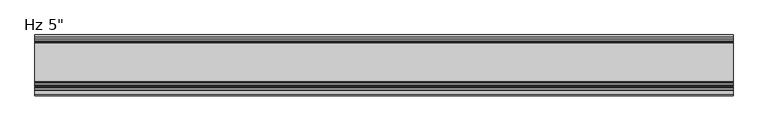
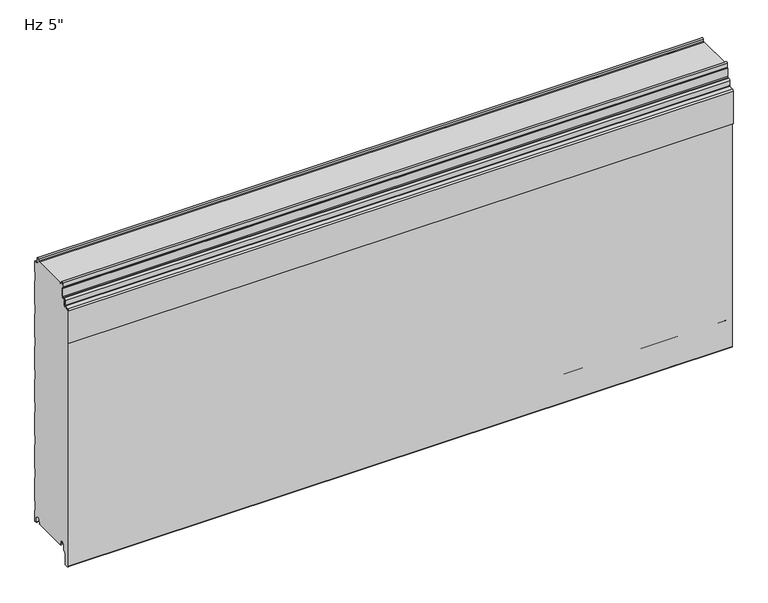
"""IFC4 building model written with IfcOpenShell, lengths in millimetres: plate geometry."""

from ifc_helpers import new_model, si_unit, frame, origin, place, context, project, spatial, polyline, circle_curve, source, transform, mapped, element, save
from ifc_brep_helpers import plane_surface, cylinder_surface, revolved_surface, advanced_brep


def plate_a877b8e1(model_context):
    return source(origin(), model_context, "Body", "AdvancedBrep", [
        advanced_brep(
        [(730.0, -105.9008679, 583.4464086), (730.0, -105.9008679, 602.1916086), (730.0, -107.4248679, 602.1916086), (730.0, -107.4248679, 583.4464086), (730.0, -108.9488679, 581.9224086), (730.0, -112.0476679, 581.9224086), (730.0, -115.5020679, 578.4680086), (730.0, -115.5020679, 567.2554512), (730.0, -116.1976552, 566.4963509), (730.0, -125.7416507, 565.3015233), (730.0, -128.524, 562.2651218), (730.0, -128.5360323, 486.6978086), (730.0, -127.0, 486.6978086), (730.0, -127.0, 562.2651218), (730.0, -125.6088254, 563.7833225), (730.0, -116.0648299, 564.9781501), (730.0, -113.9780679, 567.2554512), (730.0, -113.9780679, 578.4680086), (730.0, -112.0476679, 580.3984086), (730.0, -108.9488679, 580.3984086), (-730.0, -105.9008679, 583.4464086), (-730.0, -108.9488679, 580.3984086), (-730.0, -112.0476679, 580.3984086), (-730.0, -113.9780679, 578.4680086), (-730.0, -113.9780679, 567.2554512), (-730.0, -116.0648299, 564.9781501), (-730.0, -125.6088254, 563.7833225), (-730.0, -127.0, 562.2651218), (-730.0, -127.0, 486.6978086), (-730.0, -128.5360323, 486.6978086), (-730.0, -128.5360323, 562.2651218), (-730.0, -125.7416507, 565.3015233), (-730.0, -116.1976552, 566.4963509), (-730.0, -115.5020679, 567.2554512), (-730.0, -115.5020679, 578.4680086), (-730.0, -112.0476679, 581.9224086), (-730.0, -108.9488679, 581.9224086), (-730.0, -107.4248679, 583.4464086), (-730.0, -107.4248679, 602.1916086), (-730.0, -105.9008679, 602.1916086)],
        [
            (0, 1),
            (1, 2),
            (2, 3),
            (3, 4, circle_curve(frame((730.0, -108.9488679, 583.4464086), z_axis=(-1.0, 0.0, 0.0), x_axis=(0.0, 1.0, 0.0)), 1.524)),
            (4, 5),
            (5, 6, circle_curve(frame((730.0, -112.0476679, 578.4680086), z_axis=(1.0, 0.0, 0.0), x_axis=(0.0, 1.0, 0.0)), 3.4544)),
            (6, 7),
            (7, 8, circle_curve(frame((730.0, -116.2640679, 567.2554512), z_axis=(-1.0, 0.0, 0.0), x_axis=(0.0, 1.0, 0.0)), 0.762)),
            (8, 9),
            (9, 10, circle_curve(frame((730.0, -125.476, 562.2651218), z_axis=(1.0, 0.0, 0.0), x_axis=(0.0, 1.0, 0.0)), 3.048)),
            (10, 11),
            (11, 12),
            (12, 13),
            (13, 14, circle_curve(frame((730.0, -125.476, 562.2651218), z_axis=(-1.0, 0.0, 0.0), x_axis=(0.0, 1.0, 0.0)), 1.524)),
            (14, 15),
            (15, 16, circle_curve(frame((730.0, -116.2640679, 567.2554512), z_axis=(1.0, 0.0, 0.0), x_axis=(0.0, 1.0, 0.0)), 2.286)),
            (16, 17),
            (17, 18, circle_curve(frame((730.0, -112.0476679, 578.4680086), z_axis=(-1.0, 0.0, 0.0), x_axis=(0.0, 1.0, 0.0)), 1.9304)),
            (18, 19),
            (19, 0, circle_curve(frame((730.0, -108.9488679, 583.4464086), z_axis=(1.0, 0.0, 0.0), x_axis=(0.0, 1.0, 0.0)), 3.048)),
            (20, 21, circle_curve(frame((-730.0, -108.9488679, 583.4464086), z_axis=(-1.0, 0.0, 0.0), x_axis=(0.0, 1.0, 0.0)), 3.048)),
            (21, 22),
            (22, 23, circle_curve(frame((-730.0, -112.0476679, 578.4680086), z_axis=(1.0, 0.0, 0.0), x_axis=(0.0, 1.0, 0.0)), 1.9304)),
            (23, 24),
            (24, 25, circle_curve(frame((-730.0, -116.2640679, 567.2554512), z_axis=(-1.0, 0.0, 0.0), x_axis=(0.0, 1.0, 0.0)), 2.286)),
            (25, 26),
            (26, 27, circle_curve(frame((-730.0, -125.476, 562.2651218), z_axis=(1.0, 0.0, 0.0), x_axis=(0.0, 1.0, 0.0)), 1.524)),
            (27, 28),
            (28, 29),
            (29, 30),
            (30, 31, circle_curve(frame((-730.0, -125.476, 562.2651218), z_axis=(-1.0, 0.0, 0.0), x_axis=(0.0, 1.0, 0.0)), 3.048)),
            (31, 32),
            (32, 33, circle_curve(frame((-730.0, -116.2640679, 567.2554512), z_axis=(1.0, 0.0, 0.0), x_axis=(0.0, 1.0, 0.0)), 0.762)),
            (33, 34),
            (34, 35, circle_curve(frame((-730.0, -112.0476679, 578.4680086), z_axis=(-1.0, 0.0, 0.0), x_axis=(0.0, 1.0, 0.0)), 3.4544)),
            (35, 36),
            (36, 37, circle_curve(frame((-730.0, -108.9488679, 583.4464086), z_axis=(1.0, 0.0, 0.0), x_axis=(0.0, 1.0, 0.0)), 1.524)),
            (37, 38),
            (38, 39),
            (39, 20),
            (2, 38),
            (37, 3),
            (15, 25),
            (24, 16),
            (7, 33),
            (32, 8),
            (5, 35),
            (34, 6),
            (1, 39),
            (36, 4),
            (9, 31),
            (30, 10),
            (13, 27),
            (26, 14),
            (0, 20),
            (12, 28),
            (29, 11),
            (23, 17),
            (18, 22),
            (21, 19),
        ],
        [
            plane_surface(frame((730.0, -127.0, 602.1916086), z_axis=(1.0, 0.0, 0.0), x_axis=(0.0, 0.0, -1.0))),
            plane_surface(frame((-730.0, -127.0, 602.1916086), z_axis=(-1.0, 0.0, 0.0), x_axis=(0.0, 0.0, -1.0))),
            plane_surface(frame((730.0, -107.4248679, 583.4464086), z_axis=(0.0, -1.0, 0.0), x_axis=(-1.0, 0.0, 0.0))),
            cylinder_surface(frame((730.0, -116.2640679, 567.2554512), z_axis=(1.0, 0.0, 0.0), x_axis=(0.0, 1.0, 0.0)), 2.286),
            revolved_surface(polyline([(-730.0, -115.5020679, 567.2554512), (730.0, -115.5020679, 567.2554512)]), (730.0, -116.2640679, 567.2554512), (-1.0, 0.0, 0.0)),
            cylinder_surface(frame((730.0, -112.0476679, 578.4680086), z_axis=(1.0, 0.0, 0.0), x_axis=(0.0, 1.0, 0.0)), 3.4544),
            plane_surface(frame((730.0, -107.4248679, 602.1916086), z_axis=(0.0, 0.0, 1.0), x_axis=(-1.0, 0.0, 0.0))),
            revolved_surface(polyline([(-730.0, -107.4248679, 583.4464086), (730.0, -107.4248679, 583.4464086)]), (730.0, -108.9488679, 583.4464086), (-1.0, 0.0, 0.0)),
            cylinder_surface(frame((730.0, -125.476, 562.2651218), z_axis=(1.0, 0.0, 0.0), x_axis=(0.0, 1.0, 0.0)), 3.048),
            revolved_surface(polyline([(-730.0, -123.952, 562.2651218), (730.0, -123.952, 562.2651218)]), (730.0, -125.476, 562.2651218), (-1.0, 0.0, 0.0)),
            plane_surface(frame((730.0, -105.9008679, 602.1916086), z_axis=(0.0, 1.0, 0.0), x_axis=(-1.0, 0.0, 0.0))),
            plane_surface(frame((730.0, -116.0648299, 564.9781501), z_axis=(0.0, 0.12422187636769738, -0.9922544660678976), x_axis=(-1.0, 0.0, 0.0))),
            plane_surface(frame((730.0, -127.0, 562.2651218), z_axis=(0.0, 1.0, 0.0), x_axis=(-1.0, 0.0, 0.0))),
            plane_surface(frame((730.0, -125.7416507, 565.3015233), z_axis=(0.0, -0.12422187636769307, 0.9922544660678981), x_axis=(-1.0, 0.0, 0.0))),
            plane_surface(frame((730.0, -112.0476679, 581.9224086), z_axis=(0.0, 0.0, 1.0), x_axis=(-1.0, 0.0, 0.0))),
            plane_surface(frame((730.0, -128.5360323, 486.6978086), z_axis=(0.0, -1.0, 0.0), x_axis=(-1.0, 0.0, 0.0))),
            plane_surface(frame((730.0, -127.0, 486.6978086), z_axis=(0.0, 0.0, -1.0), x_axis=(-1.0, 0.0, 0.0))),
            plane_surface(frame((730.0, -113.9780679, 578.4680086), z_axis=(0.0, 1.0, 0.0), x_axis=(-1.0, 0.0, 0.0))),
            plane_surface(frame((730.0, -108.9488679, 580.3984086), z_axis=(0.0, 0.0, -1.0), x_axis=(-1.0, 0.0, 0.0))),
            plane_surface(frame((730.0, -115.5020679, 567.2554512), z_axis=(0.0, -1.0, 0.0), x_axis=(-1.0, 0.0, 0.0))),
            revolved_surface(polyline([(-730.0, -110.11726789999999, 578.4680086), (730.0, -110.11726789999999, 578.4680086)]), (730.0, -112.0476679, 578.4680086), (-1.0, 0.0, 0.0)),
            cylinder_surface(frame((730.0, -108.9488679, 583.4464086), z_axis=(1.0, 0.0, 0.0), x_axis=(0.0, 1.0, 0.0)), 3.048),
        ],
        [
            (0, [[1, 2, 3, 4, 5, 6, 7, 8, 9, 10, 11, 12, 13, 14, 15, 16, 17, 18, 19, 20]]),
            (1, [[21, 22, 23, 24, 25, 26, 27, 28, 29, 30, 31, 32, 33, 34, 35, 36, 37, 38, 39, 40]]),
            (2, [[41, -38, 42, -3]]),
            (3, [[43, -25, 44, -16]]),
            (4, [[45, -33, 46, -8]]),
            (5, [[47, -35, 48, -6]]),
            (6, [[49, -39, -41, -2]]),
            (7, [[-42, -37, 50, -4]]),
            (8, [[51, -31, 52, -10]]),
            (9, [[53, -27, 54, -14]]),
            (10, [[55, -40, -49, -1]]),
            (11, [[-54, -26, -43, -15]]),
            (12, [[56, -28, -53, -13]]),
            (13, [[-46, -32, -51, -9]]),
            (14, [[-50, -36, -47, -5]]),
            (15, [[-52, -30, 57, -11]]),
            (16, [[-57, -29, -56, -12]]),
            (17, [[-44, -24, 58, -17]]),
            (18, [[59, -22, 60, -19]]),
            (19, [[-48, -34, -45, -7]]),
            (20, [[-58, -23, -59, -18]]),
            (21, [[-60, -21, -55, -20]]),
        ],
    ),
        advanced_brep(
        [(-730.0, -98.670875, 1.0316999), (-730.0, -97.5014003, 2.2328239), (-730.0, -97.5014003, 5.9912173), (-730.0, -98.8998791, 5.9912173), (-730.0, -98.8998791, 8.6903283), (-730.0, -102.2498744, 12.0403236), (-730.0, -106.6498656, 12.0403236), (-730.0, -109.9998609, 8.6903283), (-730.0, -109.9998609, -3.1205608), (-730.0, -110.4977778, -4.3226385), (-730.0, -115.9998489, -9.8247096), (-730.0, -115.9998489, -31.9198392), (-730.0, -118.2184509, -34.5765709), (-730.0, -123.2002718, -35.0125699), (-730.0, -125.9945967, -32.4521176), (-730.0, -126.0, 561.115622), (-730.0, -124.2149259, 563.0669057), (-730.0, -115.7539491, 563.821161), (-730.0, -112.9906462, 566.9653654), (-730.0, -112.9906462, 577.0583308), (-730.0, -112.0392375, 578.0097394), (-730.0, -108.8955822, 578.0097394), (-730.0, -104.8961292, 582.0091924), (-730.0, -104.8961292, 603.1895515), (-730.0, -106.876977, 604.3334028), (-730.0, -106.5217167, 613.306811), (-730.0, -102.3211391, 613.3037148), (-730.0, -102.0767242, 609.2977997), (-730.0, -100.2819116, 607.5686884), (-730.0, -97.497365, 607.5686884), (-730.0, -97.497365, 608.5686884), (-730.0, -99.084865, 608.5686884), (-730.0, -98.0535534, 609.6), (-730.0, -18.6184525, 609.6), (-730.0, -17.5871409, 608.5686884), (-730.0, -19.0015288, 608.5686884), (-730.0, -19.0015288, 607.5686884), (-730.0, -16.6743462, 607.5686884), (-730.0, -14.9256429, 609.2513685), (-730.0, -14.7059822, 613.3921924), (-730.0, -10.4046442, 613.3931719), (-730.0, -9.9974365, 604.9016499), (-730.0, -6.0026007, 601.0787013), (-730.0, -1.0, 601.0787013), (-730.0, -1.0, 576.5794011), (-730.0, -2.2002307, 575.1937682), (-730.0, -2.2002307, 555.8186019), (-730.0, -1.0, 554.4329689), (-730.0, -1.0, 500.3795535), (-730.0, -2.2002307, 498.9939206), (-730.0, -2.2002307, 479.6187543), (-730.0, -1.0, 478.2331213), (-730.0, -1.0, 424.1797059), (-730.0, -2.2002307, 422.794073), (-730.0, -2.2002307, 403.4189067), (-730.0, -1.0, 402.0332737), (-730.0, -1.0, 347.9798583), (-730.0, -2.2002307, 346.5942254), (-730.0, -2.2002307, 327.2190591), (-730.0, -1.0, 325.8334261), (-730.0, -1.0, 271.7800107), (-730.0, -2.2002307, 270.3943778), (-730.0, -2.2002307, 251.0192115), (-730.0, -1.0, 249.6335785), (-730.0, -1.0, 195.5801631), (-730.0, -2.2002307, 194.1945302), (-730.0, -2.2002307, 174.8193639), (-730.0, -1.0, 173.4337309), (-730.0, -1.0, 119.3803155), (-730.0, -2.2002307, 117.9946826), (-730.0, -2.2002307, 98.6195163), (-730.0, -1.0, 97.2338833), (-730.0, -1.0, 43.1804679), (-730.0, -2.2002307, 41.794835), (-730.0, -2.2002307, 22.4196687), (-730.0, -0.9999916, 21.034026), (-730.0, -0.9999916, -3.4662506), (-730.0, -5.2315389, -3.4662506), (-730.0, -7.0015331, -1.6962564), (-730.0, -7.0015331, 8.7237222), (-730.0, -10.301529, 12.023718), (-730.0, -14.7015202, 12.023718), (-730.0, -18.0015159, 8.7237223), (-730.0, -18.0015159, 6.0315125), (-730.0, -19.0015105, 6.0315125), (-730.0, -19.0015105, 2.0313089), (-730.0, -18.0015192, 1.0313117), (-730.0, -19.0328308, 0.0), (-730.0, -97.6391751, 0.0), (730.0, -98.670875, 1.0316999), (730.0, -97.6391751, 0.0), (730.0, -19.0328308, 0.0), (730.0, -18.0015192, 1.0313117), (730.0, -19.0015105, 2.0313089), (730.0, -19.0015105, 6.0315125), (730.0, -18.0015159, 6.0315125), (730.0, -18.0015159, 8.7237223), (730.0, -14.7015202, 12.023718), (730.0, -10.301529, 12.023718), (730.0, -7.0015331, 8.7237222), (730.0, -7.0015331, -1.6962564), (730.0, -5.2315389, -3.4662506), (730.0, -0.9999916, -3.4662506), (730.0, -0.9999916, 21.034026), (730.0, -2.2002307, 22.4196687), (730.0, -2.2002307, 41.794835), (730.0, -1.0, 43.1804679), (730.0, -1.0, 97.2338833), (730.0, -2.2002307, 98.6195163), (730.0, -2.2002307, 117.9946826), (730.0, -1.0, 119.3803155), (730.0, -1.0, 173.4337309), (730.0, -2.2002307, 174.8193639), (730.0, -2.2002307, 194.1945302), (730.0, -1.0, 195.5801631), (730.0, -1.0, 249.6335785), (730.0, -2.2002307, 251.0192115), (730.0, -2.2002307, 270.3943778), (730.0, -1.0, 271.7800107), (730.0, -1.0, 325.8334261), (730.0, -2.2002307, 327.2190591), (730.0, -2.2002307, 346.5942254), (730.0, -1.0, 347.9798583), (730.0, -1.0, 402.0332737), (730.0, -2.2002307, 403.4189067), (730.0, -2.2002307, 422.794073), (730.0, -1.0, 424.1797059), (730.0, -1.0, 478.2331213), (730.0, -2.2002307, 479.6187543), (730.0, -2.2002307, 498.9939206), (730.0, -1.0, 500.3795535), (730.0, -1.0, 554.4329689), (730.0, -2.2002307, 555.8186019), (730.0, -2.2002307, 575.1937682), (730.0, -1.0, 576.5794011), (730.0, -1.0, 601.0787013), (730.0, -6.0026007, 601.0787013), (730.0, -9.9974365, 604.9016499), (730.0, -10.4046442, 613.3931719), (730.0, -14.7059822, 613.3921924), (730.0, -14.9256429, 609.2513685), (730.0, -16.6743462, 607.5686884), (730.0, -19.0015288, 607.5686884), (730.0, -19.0015288, 608.5686884), (730.0, -17.5871409, 608.5686884), (730.0, -18.6184525, 609.6), (730.0, -98.0535534, 609.6), (730.0, -99.084865, 608.5686884), (730.0, -97.497365, 608.5686884), (730.0, -97.497365, 607.5686884), (730.0, -100.2819116, 607.5686884), (730.0, -102.0767242, 609.2977997), (730.0, -102.3211391, 613.3037148), (730.0, -106.5217167, 613.306811), (730.0, -106.876977, 604.3334028), (730.0, -104.8961292, 603.1895515), (730.0, -104.8961292, 582.0091924), (730.0, -108.8955822, 578.0097394), (730.0, -112.0392375, 578.0097394), (730.0, -112.9906462, 577.0583308), (730.0, -112.9906462, 566.9653654), (730.0, -115.7539491, 563.821161), (730.0, -124.2149259, 563.0669057), (730.0, -126.0, 561.115622), (730.0, -126.0, -32.4521176), (730.0, -123.2002718, -35.0125699), (730.0, -118.2184509, -34.5765709), (730.0, -115.9998489, -31.9198392), (730.0, -115.9998489, -9.8247096), (730.0, -110.4977778, -4.3226385), (730.0, -109.9998609, -3.1205608), (730.0, -109.9998609, 8.6903283), (730.0, -106.6498656, 12.0403236), (730.0, -102.2498744, 12.0403236), (730.0, -98.8998791, 8.6903283), (730.0, -98.8998791, 5.9912173), (730.0, -97.5014003, 5.9912173), (730.0, -97.5014003, 2.2328239)],
        [
            (0, 1, circle_curve(frame((-730.0, -98.7013969, 2.2313092), z_axis=(1.0, 0.0, 0.0), x_axis=(0.0, 0.0, -1.0)), 1.1999976)),
            (1, 2),
            (2, 3),
            (3, 4),
            (4, 5, circle_curve(frame((-730.0, -102.2498744, 8.6903283), z_axis=(1.0, 0.0, 0.0), x_axis=(0.0, 0.0, -1.0)), 3.3499953)),
            (5, 6),
            (6, 7, circle_curve(frame((-730.0, -106.6498656, 8.6903283), z_axis=(1.0, 0.0, 0.0), x_axis=(0.0, 0.0, -1.0)), 3.3499953)),
            (7, 8),
            (8, 9, circle_curve(frame((-730.0, -111.6998555, -3.1205608), z_axis=(-1.0, 0.0, 0.0), x_axis=(0.0, 0.0, -1.0)), 1.6999946)),
            (9, 10),
            (10, 11),
            (11, 12, circle_curve(frame((-730.0, -118.6998415, -31.9198392), z_axis=(-1.0, 0.0, 0.0), x_axis=(0.0, 0.0, -1.0)), 2.6999926)),
            (12, 13),
            (13, 14, circle_curve(frame((-730.0, -123.4243575, -32.4521176), z_axis=(-1.0, 0.0, 0.0), x_axis=(0.0, 0.0, -1.0)), 2.5702393)),
            (14, 15),
            (15, 16, circle_curve(frame((-730.0, -124.0409784, 561.115622), z_axis=(-1.0, 0.0, 0.0), x_axis=(0.0, 0.0, -1.0)), 1.9590216)),
            (16, 17),
            (17, 18, circle_curve(frame((-730.0, -116.0180321, 566.8396267), z_axis=(1.0, 0.0, 0.0), x_axis=(0.0, 0.0, -1.0)), 3.0299959)),
            (18, 19),
            (19, 20, circle_curve(frame((-730.0, -112.0392375, 577.0583308), z_axis=(-1.0, 0.0, 0.0), x_axis=(0.0, 0.0, -1.0)), 0.9514087)),
            (20, 21),
            (21, 22, circle_curve(frame((-730.0, -108.8955822, 582.0091924), z_axis=(1.0, 0.0, 0.0), x_axis=(0.0, 0.0, -1.0)), 3.9994529)),
            (22, 23),
            (23, 24),
            (24, 25),
            (25, 26, circle_curve(frame((-730.0, -104.421488, 613.2236622), z_axis=(-1.0, 0.0, 0.0), x_axis=(0.0, 0.0, -1.0)), 2.1018739)),
            (26, 27),
            (27, 28, circle_curve(frame((-730.0, -100.2383506, 609.4099653), z_axis=(1.0, 0.0, 0.0), x_axis=(0.0, 0.0, -1.0)), 1.8417922)),
            (28, 29),
            (29, 30),
            (30, 31),
            (31, 32),
            (32, 33),
            (33, 34),
            (34, 35),
            (35, 36),
            (36, 37),
            (37, 38, circle_curve(frame((-730.0, -16.6743462, 609.3186869), z_axis=(1.0, 0.0, 0.0), x_axis=(0.0, 0.0, 1.0)), 1.7499985)),
            (38, 39),
            (39, 40, circle_curve(frame((-730.0, -12.5552871, 613.2781032), z_axis=(-1.0, 0.0, 0.0), x_axis=(0.0, 0.0, 1.0)), 2.153719)),
            (40, 41),
            (41, 42, circle_curve(frame((-730.0, -5.9867338, 605.0939817), z_axis=(1.0, 0.0, 0.0), x_axis=(0.0, 0.0, 1.0)), 4.0153117)),
            (42, 43),
            (43, 44),
            (44, 45),
            (45, 46),
            (46, 47),
            (47, 48),
            (48, 49),
            (49, 50),
            (50, 51),
            (51, 52),
            (52, 53),
            (53, 54),
            (54, 55),
            (55, 56),
            (56, 57),
            (57, 58),
            (58, 59),
            (59, 60),
            (60, 61),
            (61, 62),
            (62, 63),
            (63, 64),
            (64, 65),
            (65, 66),
            (66, 67),
            (67, 68),
            (68, 69),
            (69, 70),
            (70, 71),
            (71, 72),
            (72, 73),
            (73, 74),
            (74, 75),
            (75, 76),
            (76, 77),
            (77, 78, circle_curve(frame((-730.0, -5.2315389, -1.6962564), z_axis=(-1.0, 0.0, 0.0), x_axis=(0.0, 0.0, 1.0)), 1.7699942)),
            (78, 79),
            (79, 80, circle_curve(frame((-730.0, -10.301529, 8.7237222), z_axis=(1.0, 0.0, 0.0), x_axis=(0.0, 0.0, 1.0)), 3.2999959)),
            (80, 81),
            (81, 82, circle_curve(frame((-730.0, -14.7015202, 8.7237223), z_axis=(1.0, 0.0, 0.0), x_axis=(0.0, 0.0, 1.0)), 3.2999957)),
            (82, 83),
            (83, 84),
            (84, 85),
            (85, 86, circle_curve(frame((-730.0, -18.0015133, 2.0313089), z_axis=(1.0, 0.0, 0.0), x_axis=(0.0, 0.0, 1.0)), 0.9999972)),
            (86, 87),
            (87, 88),
            (88, 0),
            (89, 90),
            (90, 91),
            (91, 92),
            (92, 93, circle_curve(frame((730.0, -18.0015133, 2.0313089), z_axis=(-1.0, 0.0, 0.0), x_axis=(0.0, 0.0, 1.0)), 0.9999972)),
            (93, 94),
            (94, 95),
            (95, 96),
            (96, 97, circle_curve(frame((730.0, -14.7015202, 8.7237223), z_axis=(-1.0, 0.0, 0.0), x_axis=(0.0, 0.0, 1.0)), 3.2999957)),
            (97, 98),
            (98, 99, circle_curve(frame((730.0, -10.301529, 8.7237222), z_axis=(-1.0, 0.0, 0.0), x_axis=(0.0, 0.0, 1.0)), 3.2999959)),
            (99, 100),
            (100, 101, circle_curve(frame((730.0, -5.2315389, -1.6962564), z_axis=(1.0, 0.0, 0.0), x_axis=(0.0, 0.0, 1.0)), 1.7699942)),
            (101, 102),
            (102, 103),
            (103, 104),
            (104, 105),
            (105, 106),
            (106, 107),
            (107, 108),
            (108, 109),
            (109, 110),
            (110, 111),
            (111, 112),
            (112, 113),
            (113, 114),
            (114, 115),
            (115, 116),
            (116, 117),
            (117, 118),
            (118, 119),
            (119, 120),
            (120, 121),
            (121, 122),
            (122, 123),
            (123, 124),
            (124, 125),
            (125, 126),
            (126, 127),
            (127, 128),
            (128, 129),
            (129, 130),
            (130, 131),
            (131, 132),
            (132, 133),
            (133, 134),
            (134, 135),
            (135, 136),
            (136, 137, circle_curve(frame((730.0, -5.9867338, 605.0939817), z_axis=(-1.0, 0.0, 0.0), x_axis=(0.0, 0.0, 1.0)), 4.0153117)),
            (137, 138),
            (138, 139, circle_curve(frame((730.0, -12.5552871, 613.2781032), z_axis=(1.0, 0.0, 0.0), x_axis=(0.0, 0.0, 1.0)), 2.153719)),
            (139, 140),
            (140, 141, circle_curve(frame((730.0, -16.6743462, 609.3186869), z_axis=(-1.0, 0.0, 0.0), x_axis=(0.0, 0.0, 1.0)), 1.7499985)),
            (141, 142),
            (142, 143),
            (143, 144),
            (144, 145),
            (145, 146),
            (146, 147),
            (147, 148),
            (148, 149),
            (149, 150),
            (150, 151, circle_curve(frame((730.0, -100.2383506, 609.4099653), z_axis=(-1.0, 0.0, 0.0), x_axis=(0.0, 0.0, -1.0)), 1.8417922)),
            (151, 152),
            (152, 153, circle_curve(frame((730.0, -104.421488, 613.2236622), z_axis=(1.0, 0.0, 0.0), x_axis=(0.0, 0.0, -1.0)), 2.1018739)),
            (153, 154),
            (154, 155),
            (155, 156),
            (156, 157, circle_curve(frame((730.0, -108.8955822, 582.0091924), z_axis=(-1.0, 0.0, 0.0), x_axis=(0.0, 0.0, -1.0)), 3.9994529)),
            (157, 158),
            (158, 159, circle_curve(frame((730.0, -112.0392375, 577.0583308), z_axis=(1.0, 0.0, 0.0), x_axis=(0.0, 0.0, -1.0)), 0.9514087)),
            (159, 160),
            (160, 161, circle_curve(frame((730.0, -116.0180321, 566.8396267), z_axis=(-1.0, 0.0, 0.0), x_axis=(0.0, 0.0, -1.0)), 3.0299959)),
            (161, 162),
            (162, 163, circle_curve(frame((730.0, -124.0409784, 561.115622), z_axis=(1.0, 0.0, 0.0), x_axis=(0.0, 0.0, -1.0)), 1.9590216)),
            (163, 164),
            (164, 165, circle_curve(frame((730.0, -123.4243575, -32.4521176), z_axis=(1.0, 0.0, 0.0), x_axis=(0.0, 0.0, -1.0)), 2.5702393)),
            (165, 166),
            (166, 167, circle_curve(frame((730.0, -118.6998415, -31.9198392), z_axis=(1.0, 0.0, 0.0), x_axis=(0.0, 0.0, -1.0)), 2.6999926)),
            (167, 168),
            (168, 169),
            (169, 170, circle_curve(frame((730.0, -111.6998555, -3.1205608), z_axis=(1.0, 0.0, 0.0), x_axis=(0.0, 0.0, -1.0)), 1.6999946)),
            (170, 171),
            (171, 172, circle_curve(frame((730.0, -106.6498656, 8.6903283), z_axis=(-1.0, 0.0, 0.0), x_axis=(0.0, 0.0, -1.0)), 3.3499953)),
            (172, 173),
            (173, 174, circle_curve(frame((730.0, -102.2498744, 8.6903283), z_axis=(-1.0, 0.0, 0.0), x_axis=(0.0, 0.0, -1.0)), 3.3499953)),
            (174, 175),
            (175, 176),
            (176, 177),
            (177, 89, circle_curve(frame((730.0, -98.7013969, 2.2313092), z_axis=(-1.0, 0.0, 0.0), x_axis=(0.0, 0.0, -1.0)), 1.1999976)),
            (88, 90),
            (89, 0),
            (87, 91),
            (32, 146),
            (145, 33),
            (31, 147),
            (30, 148),
            (29, 149),
            (28, 150),
            (27, 151),
            (26, 152),
            (25, 153),
            (24, 154),
            (23, 155),
            (22, 156),
            (21, 157),
            (20, 158),
            (19, 159),
            (18, 160),
            (17, 161),
            (16, 162),
            (15, 163),
            (14, 164),
            (13, 165),
            (12, 166),
            (11, 167),
            (10, 168),
            (9, 169),
            (8, 170),
            (7, 171),
            (6, 172),
            (5, 173),
            (4, 174),
            (3, 175),
            (2, 176),
            (1, 177),
            (86, 92),
            (85, 93),
            (84, 94),
            (83, 95),
            (82, 96),
            (81, 97),
            (80, 98),
            (79, 99),
            (78, 100),
            (77, 101),
            (76, 102),
            (41, 137),
            (136, 42),
            (40, 138),
            (39, 139),
            (38, 140),
            (37, 141),
            (36, 142),
            (35, 143),
            (34, 144),
            (74, 104),
            (103, 75),
            (73, 105),
            (72, 106),
            (71, 107),
            (70, 108),
            (69, 109),
            (68, 110),
            (67, 111),
            (66, 112),
            (65, 113),
            (64, 114),
            (63, 115),
            (62, 116),
            (61, 117),
            (60, 118),
            (59, 119),
            (58, 120),
            (57, 121),
            (56, 122),
            (55, 123),
            (54, 124),
            (53, 125),
            (52, 126),
            (51, 127),
            (50, 128),
            (49, 129),
            (48, 130),
            (47, 131),
            (46, 132),
            (45, 133),
            (44, 134),
            (43, 135),
        ],
        [
            plane_surface(frame((-730.0, -126.0, 304.8), z_axis=(-1.0, 0.0, 0.0), x_axis=(0.0, -1.0, 0.0))),
            plane_surface(frame((730.0, -126.0, 304.8), z_axis=(1.0, 0.0, 0.0), x_axis=(0.0, -1.0, 0.0))),
            plane_surface(frame((-730.0, -98.670875, 1.0316999), z_axis=(0.0, -0.7071067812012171, -0.707106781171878), x_axis=(1.0, 0.0, 0.0))),
            plane_surface(frame((-730.0, -97.6391751, 0.0), z_axis=(0.0, 0.0, -1.0), x_axis=(1.0, 0.0, 0.0))),
            plane_surface(frame((-730.0, -96.6391751, 609.6), z_axis=(0.0, 0.0, 1.0), x_axis=(1.0, 0.0, 0.0))),
            plane_surface(frame((-730.0, -98.0535534, 609.6), z_axis=(0.0, -0.7071067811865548, 0.7071067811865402), x_axis=(1.0, 0.0, 0.0))),
            plane_surface(frame((-730.0, -99.084865, 608.5686884), z_axis=(0.0, 0.0, -1.0), x_axis=(1.0, 0.0, 0.0))),
            plane_surface(frame((-730.0, -97.497365, 608.5686884), z_axis=(0.0, -1.0, 0.0), x_axis=(1.0, 0.0, 0.0))),
            plane_surface(frame((-730.0, -97.497365, 607.5686884), z_axis=(0.0, 0.0, 1.0), x_axis=(1.0, 0.0, 0.0))),
            revolved_surface(polyline([(730.0, -100.2383506, 607.5681731), (-730.0, -100.2383506, 607.5681731)]), (-730.0, -100.2383506, 609.4099653), (1.0, 0.0, 0.0)),
            plane_surface(frame((-730.0, -102.0767242, 609.2977997), z_axis=(0.0, 0.9981438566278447, 0.06090025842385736), x_axis=(1.0, 0.0, 0.0))),
            cylinder_surface(frame((-730.0, -104.421488, 613.2236622), z_axis=(-1.0, 0.0, 0.0), x_axis=(0.0, 0.0, -1.0)), 2.1018739),
            plane_surface(frame((-730.0, -106.5217167, 613.306811), z_axis=(0.0, -0.9992172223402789, 0.03955935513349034), x_axis=(1.0, 0.0, 0.0))),
            plane_surface(frame((-730.0, -106.876977, 604.3334028), z_axis=(0.0, -0.5000682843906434, -0.865985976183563), x_axis=(1.0, 0.0, 0.0))),
            plane_surface(frame((-730.0, -104.8961292, 603.1895515), z_axis=(0.0, -1.0, 0.0), x_axis=(1.0, 0.0, 0.0))),
            revolved_surface(polyline([(730.0, -108.8955822, 578.0097394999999), (-730.0, -108.8955822, 578.0097394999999)]), (-730.0, -108.8955822, 582.0091924), (1.0, 0.0, 0.0)),
            plane_surface(frame((-730.0, -108.8955822, 578.0097394), z_axis=(0.0, 0.0, 1.0), x_axis=(1.0, 0.0, 0.0))),
            cylinder_surface(frame((-730.0, -112.0392375, 577.0583308), z_axis=(-1.0, 0.0, 0.0), x_axis=(0.0, 0.0, -1.0)), 0.9514087),
            plane_surface(frame((-730.0, -112.9906462, 577.0583308), z_axis=(0.0, -1.0, 0.0), x_axis=(1.0, 0.0, 0.0))),
            revolved_surface(polyline([(730.0, -116.0180321, 563.8096308), (-730.0, -116.0180321, 563.8096308)]), (-730.0, -116.0180321, 566.8396267), (1.0, 0.0, 0.0)),
            plane_surface(frame((-730.0, -115.7539491, 563.821161), z_axis=(0.0, -0.08879306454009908, 0.9960500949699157), x_axis=(1.0, 0.0, 0.0))),
            cylinder_surface(frame((-730.0, -124.0409784, 561.115622), z_axis=(-1.0, 0.0, 0.0), x_axis=(0.0, 0.0, -1.0)), 1.9590216),
            plane_surface(frame((-730.0, -126.0, 561.115622), z_axis=(0.0, -1.0, 0.0), x_axis=(1.0, 0.0, 0.0))),
            cylinder_surface(frame((-730.0, -123.4243575, -32.4521176), z_axis=(-1.0, 0.0, 0.0), x_axis=(0.0, 0.0, -1.0)), 2.5702393),
            plane_surface(frame((-730.0, -123.2002718, -35.0125699), z_axis=(0.0, 0.08718474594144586, -0.9961921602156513), x_axis=(1.0, 0.0, 0.0))),
            cylinder_surface(frame((-730.0, -118.6998415, -31.9198392), z_axis=(-1.0, 0.0, 0.0), x_axis=(0.0, 0.0, -1.0)), 2.6999926),
            plane_surface(frame((-730.0, -115.9998489, -31.9198392), z_axis=(0.0, 1.0, 0.0), x_axis=(1.0, 0.0, 0.0))),
            plane_surface(frame((-730.0, -115.9998489, -9.8247096), z_axis=(0.0, 0.7071067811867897, -0.7071067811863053), x_axis=(1.0, 0.0, 0.0))),
            cylinder_surface(frame((-730.0, -111.6998555, -3.1205608), z_axis=(-1.0, 0.0, 0.0), x_axis=(0.0, 0.0, -1.0)), 1.6999946),
            plane_surface(frame((-730.0, -109.9998609, -3.1205608), z_axis=(0.0, 1.0, 0.0), x_axis=(1.0, 0.0, 0.0))),
            revolved_surface(polyline([(730.0, -106.6498656, 5.340332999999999), (-730.0, -106.6498656, 5.340332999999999)]), (-730.0, -106.6498656, 8.6903283), (1.0, 0.0, 0.0)),
            plane_surface(frame((-730.0, -106.6498656, 12.0403236), z_axis=(0.0, 0.0, -1.0), x_axis=(1.0, 0.0, 0.0))),
            revolved_surface(polyline([(730.0, -102.2498744, 5.340332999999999), (-730.0, -102.2498744, 5.340332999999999)]), (-730.0, -102.2498744, 8.6903283), (1.0, 0.0, 0.0)),
            plane_surface(frame((-730.0, -98.8998791, 8.6903283), z_axis=(0.0, -1.0, 0.0), x_axis=(1.0, 0.0, 0.0))),
            plane_surface(frame((-730.0, -98.8998791, 5.9912173), z_axis=(0.0, 0.0, -1.0), x_axis=(1.0, 0.0, 0.0))),
            plane_surface(frame((-730.0, -97.5014003, 5.9912173), z_axis=(0.0, -1.0, 0.0), x_axis=(1.0, 0.0, 0.0))),
            revolved_surface(polyline([(730.0, -98.7013969, 1.0313116), (-730.0, -98.7013969, 1.0313116)]), (-730.0, -98.7013969, 2.2313092), (1.0, 0.0, 0.0)),
            plane_surface(frame((-730.0, -19.0328308, 0.0), z_axis=(0.0, 0.7071067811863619, -0.7071067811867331), x_axis=(1.0, 0.0, 0.0))),
            revolved_surface(polyline([(730.0, -18.0015133, 3.0313061), (-730.0, -18.0015133, 3.0313061)]), (-730.0, -18.0015133, 2.0313089), (1.0, 0.0, 0.0)),
            plane_surface(frame((-730.0, -19.0015105, 2.0313089), z_axis=(0.0, 1.0, 0.0), x_axis=(1.0, 0.0, 0.0))),
            plane_surface(frame((-730.0, -19.0015105, 6.0315125), z_axis=(0.0, 0.0, -1.0), x_axis=(1.0, 0.0, 0.0))),
            plane_surface(frame((-730.0, -18.0015159, 6.0315125), z_axis=(0.0, 1.0, 0.0), x_axis=(1.0, 0.0, 0.0))),
            revolved_surface(polyline([(730.0, -14.7015202, 12.023718), (-730.0, -14.7015202, 12.023718)]), (-730.0, -14.7015202, 8.7237223), (1.0, 0.0, 0.0)),
            plane_surface(frame((-730.0, -14.7015202, 12.023718), z_axis=(0.0, 0.0, -1.0), x_axis=(1.0, 0.0, 0.0))),
            revolved_surface(polyline([(730.0, -10.301529, 12.0237181), (-730.0, -10.301529, 12.0237181)]), (-730.0, -10.301529, 8.7237222), (1.0, 0.0, 0.0)),
            plane_surface(frame((-730.0, -7.0015331, 8.7237222), z_axis=(0.0, -1.0, 0.0), x_axis=(1.0, 0.0, 0.0))),
            cylinder_surface(frame((-730.0, -5.2315389, -1.6962564), z_axis=(-1.0, 0.0, 0.0), x_axis=(0.0, 0.0, 1.0)), 1.7699942),
            plane_surface(frame((-730.0, -5.2315389, -3.4662506), z_axis=(0.0, 0.0, -1.0), x_axis=(1.0, 0.0, 0.0))),
            revolved_surface(polyline([(730.0, -5.9867338, 609.1092934), (-730.0, -5.9867338, 609.1092934)]), (-730.0, -5.9867338, 605.0939817), (1.0, 0.0, 0.0)),
            plane_surface(frame((-730.0, -9.9974365, 604.9016499), z_axis=(0.0, 0.9988521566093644, 0.04789957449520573), x_axis=(1.0, 0.0, 0.0))),
            cylinder_surface(frame((-730.0, -12.5552871, 613.2781032), z_axis=(-1.0, 0.0, 0.0), x_axis=(0.0, 0.0, 1.0)), 2.153719),
            plane_surface(frame((-730.0, -14.7059822, 613.3921924), z_axis=(0.0, -0.9985959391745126, 0.05297310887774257), x_axis=(1.0, 0.0, 0.0))),
            revolved_surface(polyline([(730.0, -16.6743462, 611.0686853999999), (-730.0, -16.6743462, 611.0686853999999)]), (-730.0, -16.6743462, 609.3186869), (1.0, 0.0, 0.0)),
            plane_surface(frame((-730.0, -16.6743462, 607.5686884), z_axis=(0.0, 0.0, 1.0), x_axis=(1.0, 0.0, 0.0))),
            plane_surface(frame((-730.0, -19.0015288, 607.5686884), z_axis=(0.0, 1.0, 0.0), x_axis=(1.0, 0.0, 0.0))),
            plane_surface(frame((-730.0, -19.0015288, 608.5686884), z_axis=(0.0, 0.0, -1.0), x_axis=(1.0, 0.0, 0.0))),
            plane_surface(frame((-730.0, -17.5871409, 608.5686884), z_axis=(0.0, 0.7071067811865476, 0.7071067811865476), x_axis=(1.0, 0.0, 0.0))),
            plane_surface(frame((-730.0, -0.9999916, 21.034026), z_axis=(0.0, 0.7558648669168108, 0.6547276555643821), x_axis=(1.0, 0.0, 0.0))),
            plane_surface(frame((-730.0, -0.9999916, -3.4662506), z_axis=(0.0, 1.0, 0.0), x_axis=(1.0, 0.0, 0.0))),
            plane_surface(frame((-730.0, -2.2002307, 22.4196687), z_axis=(0.0, 1.0, 0.0), x_axis=(1.0, 0.0, 0.0))),
            plane_surface(frame((-730.0, -2.2002307, 41.794835), z_axis=(0.0, 0.7558648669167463, -0.6547276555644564), x_axis=(1.0, 0.0, 0.0))),
            plane_surface(frame((-730.0, -1.0, 43.1804679), z_axis=(0.0, 1.0, 0.0), x_axis=(1.0, 0.0, 0.0))),
            plane_surface(frame((-730.0, -1.0, 97.2338833), z_axis=(0.0, 0.7558648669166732, 0.6547276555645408), x_axis=(1.0, 0.0, 0.0))),
            plane_surface(frame((-730.0, -2.2002307, 98.6195163), z_axis=(0.0, 1.0, 0.0), x_axis=(1.0, 0.0, 0.0))),
            plane_surface(frame((-730.0, -2.2002307, 117.9946826), z_axis=(0.0, 0.7558648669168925, -0.6547276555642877), x_axis=(1.0, 0.0, 0.0))),
            plane_surface(frame((-730.0, -1.0, 119.3803155), z_axis=(0.0, 1.0, 0.0), x_axis=(1.0, 0.0, 0.0))),
            plane_surface(frame((-730.0, -1.0, 173.4337309), z_axis=(0.0, 0.7558648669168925, 0.6547276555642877), x_axis=(1.0, 0.0, 0.0))),
            plane_surface(frame((-730.0, -2.2002307, 174.8193639), z_axis=(0.0, 1.0, 0.0), x_axis=(1.0, 0.0, 0.0))),
            plane_surface(frame((-730.0, -2.2002307, 194.1945302), z_axis=(0.0, 0.7558648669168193, -0.6547276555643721), x_axis=(1.0, 0.0, 0.0))),
            plane_surface(frame((-730.0, -1.0, 195.5801631), z_axis=(0.0, 1.0, 0.0), x_axis=(1.0, 0.0, 0.0))),
            plane_surface(frame((-730.0, -1.0, 249.6335785), z_axis=(0.0, 0.7558648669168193, 0.6547276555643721), x_axis=(1.0, 0.0, 0.0))),
            plane_surface(frame((-730.0, -2.2002307, 251.0192115), z_axis=(0.0, 1.0, 0.0), x_axis=(1.0, 0.0, 0.0))),
            plane_surface(frame((-730.0, -2.2002307, 270.3943778), z_axis=(0.0, 0.7558648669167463, -0.6547276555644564), x_axis=(1.0, 0.0, 0.0))),
            plane_surface(frame((-730.0, -1.0, 271.7800107), z_axis=(0.0, 1.0, 0.0), x_axis=(1.0, 0.0, 0.0))),
            plane_surface(frame((-730.0, -1.0, 325.8334261), z_axis=(0.0, 0.7558648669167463, 0.6547276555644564), x_axis=(1.0, 0.0, 0.0))),
            plane_surface(frame((-730.0, -2.2002307, 327.2190591), z_axis=(0.0, 1.0, 0.0), x_axis=(1.0, 0.0, 0.0))),
            plane_surface(frame((-730.0, -2.2002307, 346.5942254), z_axis=(0.0, 0.7558648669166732, -0.6547276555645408), x_axis=(1.0, 0.0, 0.0))),
            plane_surface(frame((-730.0, -1.0, 347.9798583), z_axis=(0.0, 1.0, 0.0), x_axis=(1.0, 0.0, 0.0))),
            plane_surface(frame((-730.0, -1.0, 402.0332737), z_axis=(0.0, 0.7558648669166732, 0.6547276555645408), x_axis=(1.0, 0.0, 0.0))),
            plane_surface(frame((-730.0, -2.2002307, 403.4189067), z_axis=(0.0, 1.0, 0.0), x_axis=(1.0, 0.0, 0.0))),
            plane_surface(frame((-730.0, -2.2002307, 422.794073), z_axis=(0.0, 0.755864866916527, -0.6547276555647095), x_axis=(1.0, 0.0, 0.0))),
            plane_surface(frame((-730.0, -1.0, 424.1797059), z_axis=(0.0, 1.0, 0.0), x_axis=(1.0, 0.0, 0.0))),
            plane_surface(frame((-730.0, -1.0, 478.2331213), z_axis=(0.0, 0.755864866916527, 0.6547276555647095), x_axis=(1.0, 0.0, 0.0))),
            plane_surface(frame((-730.0, -2.2002307, 479.6187543), z_axis=(0.0, 1.0, 0.0), x_axis=(1.0, 0.0, 0.0))),
            plane_surface(frame((-730.0, -2.2002307, 498.9939206), z_axis=(0.0, 0.755864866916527, -0.6547276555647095), x_axis=(1.0, 0.0, 0.0))),
            plane_surface(frame((-730.0, -1.0, 500.3795535), z_axis=(0.0, 1.0, 0.0), x_axis=(1.0, 0.0, 0.0))),
            plane_surface(frame((-730.0, -1.0, 554.4329689), z_axis=(0.0, 0.755864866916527, 0.6547276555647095), x_axis=(1.0, 0.0, 0.0))),
            plane_surface(frame((-730.0, -2.2002307, 555.8186019), z_axis=(0.0, 1.0, 0.0), x_axis=(1.0, 0.0, 0.0))),
            plane_surface(frame((-730.0, -2.2002307, 575.1937682), z_axis=(0.0, 0.7558648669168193, -0.6547276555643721), x_axis=(1.0, 0.0, 0.0))),
            plane_surface(frame((-730.0, -1.0, 576.5794011), z_axis=(0.0, 1.0, 0.0), x_axis=(1.0, 0.0, 0.0))),
            plane_surface(frame((-730.0, -1.0, 601.0787013), z_axis=(0.0, 0.0, 1.0), x_axis=(1.0, 0.0, 0.0))),
        ],
        [
            (0, [[1, 2, 3, 4, 5, 6, 7, 8, 9, 10, 11, 12, 13, 14, 15, 16, 17, 18, 19, 20, 21, 22, 23, 24, 25, 26, 27, 28, 29, 30, 31, 32, 33, 34, 35, 36, 37, 38, 39, 40, 41, 42, 43, 44, 45, 46, 47, 48, 49, 50, 51, 52, 53, 54, 55, 56, 57, 58, 59, 60, 61, 62, 63, 64, 65, 66, 67, 68, 69, 70, 71, 72, 73, 74, 75, 76, 77, 78, 79, 80, 81, 82, 83, 84, 85, 86, 87, 88, 89]]),
            (1, [[90, 91, 92, 93, 94, 95, 96, 97, 98, 99, 100, 101, 102, 103, 104, 105, 106, 107, 108, 109, 110, 111, 112, 113, 114, 115, 116, 117, 118, 119, 120, 121, 122, 123, 124, 125, 126, 127, 128, 129, 130, 131, 132, 133, 134, 135, 136, 137, 138, 139, 140, 141, 142, 143, 144, 145, 146, 147, 148, 149, 150, 151, 152, 153, 154, 155, 156, 157, 158, 159, 160, 161, 162, 163, 164, 165, 166, 167, 168, 169, 170, 171, 172, 173, 174, 175, 176, 177, 178]]),
            (2, [[179, -90, 180, -89]]),
            (3, [[181, -91, -179, -88]]),
            (4, [[182, -146, 183, -33]]),
            (5, [[184, -147, -182, -32]]),
            (6, [[185, -148, -184, -31]]),
            (7, [[186, -149, -185, -30]]),
            (8, [[187, -150, -186, -29]]),
            (9, [[188, -151, -187, -28]]),
            (10, [[189, -152, -188, -27]]),
            (11, [[190, -153, -189, -26]]),
            (12, [[191, -154, -190, -25]]),
            (13, [[192, -155, -191, -24]]),
            (14, [[193, -156, -192, -23]]),
            (15, [[194, -157, -193, -22]]),
            (16, [[195, -158, -194, -21]]),
            (17, [[196, -159, -195, -20]]),
            (18, [[197, -160, -196, -19]]),
            (19, [[198, -161, -197, -18]]),
            (20, [[199, -162, -198, -17]]),
            (21, [[200, -163, -199, -16]]),
            (22, [[201, -164, -200, -15]]),
            (23, [[202, -165, -201, -14]]),
            (24, [[203, -166, -202, -13]]),
            (25, [[204, -167, -203, -12]]),
            (26, [[205, -168, -204, -11]]),
            (27, [[206, -169, -205, -10]]),
            (28, [[207, -170, -206, -9]]),
            (29, [[208, -171, -207, -8]]),
            (30, [[209, -172, -208, -7]]),
            (31, [[210, -173, -209, -6]]),
            (32, [[211, -174, -210, -5]]),
            (33, [[212, -175, -211, -4]]),
            (34, [[213, -176, -212, -3]]),
            (35, [[214, -177, -213, -2]]),
            (36, [[-180, -178, -214, -1]]),
            (37, [[215, -92, -181, -87]]),
            (38, [[216, -93, -215, -86]]),
            (39, [[217, -94, -216, -85]]),
            (40, [[218, -95, -217, -84]]),
            (41, [[219, -96, -218, -83]]),
            (42, [[220, -97, -219, -82]]),
            (43, [[221, -98, -220, -81]]),
            (44, [[222, -99, -221, -80]]),
            (45, [[223, -100, -222, -79]]),
            (46, [[224, -101, -223, -78]]),
            (47, [[225, -102, -224, -77]]),
            (48, [[226, -137, 227, -42]]),
            (49, [[228, -138, -226, -41]]),
            (50, [[229, -139, -228, -40]]),
            (51, [[230, -140, -229, -39]]),
            (52, [[231, -141, -230, -38]]),
            (53, [[232, -142, -231, -37]]),
            (54, [[233, -143, -232, -36]]),
            (55, [[234, -144, -233, -35]]),
            (56, [[-183, -145, -234, -34]]),
            (57, [[235, -104, 236, -75]]),
            (58, [[-236, -103, -225, -76]]),
            (59, [[237, -105, -235, -74]]),
            (60, [[238, -106, -237, -73]]),
            (61, [[239, -107, -238, -72]]),
            (62, [[240, -108, -239, -71]]),
            (63, [[241, -109, -240, -70]]),
            (64, [[242, -110, -241, -69]]),
            (65, [[243, -111, -242, -68]]),
            (66, [[244, -112, -243, -67]]),
            (67, [[245, -113, -244, -66]]),
            (68, [[246, -114, -245, -65]]),
            (69, [[247, -115, -246, -64]]),
            (70, [[248, -116, -247, -63]]),
            (71, [[249, -117, -248, -62]]),
            (72, [[250, -118, -249, -61]]),
            (73, [[251, -119, -250, -60]]),
            (74, [[252, -120, -251, -59]]),
            (75, [[253, -121, -252, -58]]),
            (76, [[254, -122, -253, -57]]),
            (77, [[255, -123, -254, -56]]),
            (78, [[256, -124, -255, -55]]),
            (79, [[257, -125, -256, -54]]),
            (80, [[258, -126, -257, -53]]),
            (81, [[259, -127, -258, -52]]),
            (82, [[260, -128, -259, -51]]),
            (83, [[261, -129, -260, -50]]),
            (84, [[262, -130, -261, -49]]),
            (85, [[263, -131, -262, -48]]),
            (86, [[264, -132, -263, -47]]),
            (87, [[265, -133, -264, -46]]),
            (88, [[266, -134, -265, -45]]),
            (89, [[267, -135, -266, -44]]),
            (90, [[-227, -136, -267, -43]]),
        ],
    ),
    ])


if __name__ == "__main__":
    model = new_model("IFC4")
    model_context = context("Model", 3, world=origin())
    ifc_project = project(units=[si_unit("LENGTHUNIT", "METRE", prefix="MILLI")], contexts=[model_context])
    site = spatial("IfcSite", under=ifc_project)
    building = spatial("IfcBuilding", under=site)
    placement = place(None, origin())
    plate_shape = plate_a877b8e1(model_context)
    element("IfcPlate", 1, ObjectType="KIP-24-Karrier-KP-R19-CP-Hz-FL3-8in_SL : Hz 5\"", at=placement, inside=building, context=model_context, shape_type="MappedRepresentation", body=[
        mapped(plate_shape, transform((0.0, 0.0, 0.0), x_axis=(1.0, 0.0, 0.0), y_axis=(0.0, 1.0, 0.0), z_axis=(0.0, 0.0, 1.0))),
    ])
    save(model, "model.ifc")
